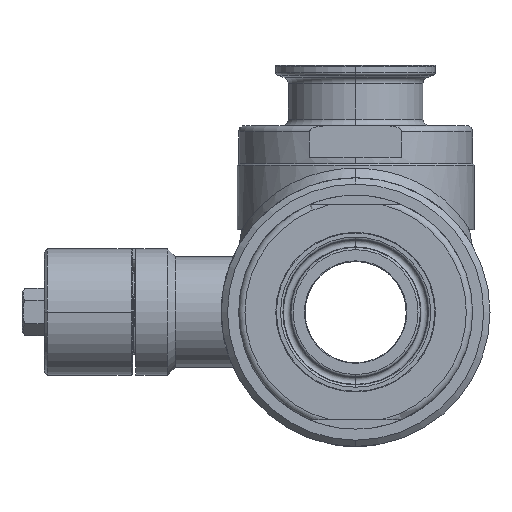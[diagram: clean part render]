
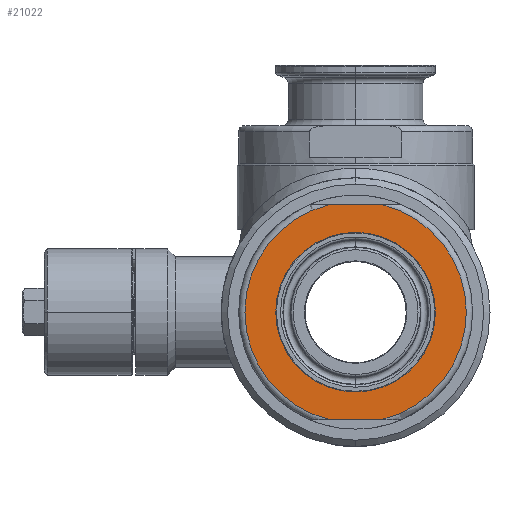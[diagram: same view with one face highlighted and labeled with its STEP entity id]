
A CAD part, left-side view. The second image highlights one B-rep face of the part: STEP entity #21022.
In plain terms, the highlighted planar face has unit normal (-1, 0, 0).
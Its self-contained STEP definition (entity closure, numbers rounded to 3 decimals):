
#20355=CARTESIAN_POINT('',(-59.,0.,0.));
#20356=DIRECTION('',(1.,0.,0.));
#20357=DIRECTION('',(0.,0.,1.));
#20358=AXIS2_PLACEMENT_3D('',#20355,#20356,#20357);
#20365=CARTESIAN_POINT('',(-59.,0.,0.));
#20366=DIRECTION('',(1.,0.,0.));
#20367=DIRECTION('',(0.,0.237,-0.971));
#20368=AXIS2_PLACEMENT_3D('',#20365,#20366,#20367);
#20370=DIRECTION('',(0.,1.,0.));
#20371=VECTOR('',#20370,16.613);
#20372=CARTESIAN_POINT('',(-59.,-8.307,34.));
#20373=LINE('',#20372,#20371);
#20374=CARTESIAN_POINT('',(-59.,0.,0.));
#20375=DIRECTION('',(1.,0.,0.));
#20376=DIRECTION('',(0.,-0.237,0.971));
#20377=AXIS2_PLACEMENT_3D('',#20374,#20375,#20376);
#20379=DIRECTION('',(0.,-1.,0.));
#20380=VECTOR('',#20379,16.613);
#20381=CARTESIAN_POINT('',(-59.,8.307,-34.));
#20382=LINE('',#20381,#20380);
#20383=CARTESIAN_POINT('',(-59.,0.,0.));
#20384=DIRECTION('',(-1.,0.,0.));
#20385=DIRECTION('',(0.,0.,1.));
#20386=AXIS2_PLACEMENT_3D('',#20383,#20384,#20385);
#20418=CARTESIAN_POINT('',(-59.,8.307,34.));
#20491=CARTESIAN_POINT('',(-59.,-8.307,-34.));
#20739=CARTESIAN_POINT('',(-59.,0.,23.3));
#20740=CARTESIAN_POINT('',(-59.,0.,-23.3));
#20741=VERTEX_POINT('',#20739);
#20742=VERTEX_POINT('',#20740);
#20780=VERTEX_POINT('',#20418);
#20781=CARTESIAN_POINT('',(-59.,8.307,-34.));
#20782=VERTEX_POINT('',#20781);
#20785=VERTEX_POINT('',#20491);
#20786=CARTESIAN_POINT('',(-59.,-8.307,34.));
#20787=VERTEX_POINT('',#20786);
#21002=CARTESIAN_POINT('',(-59.,0.,0.));
#21003=DIRECTION('',(-1.,0.,0.));
#21004=DIRECTION('',(0.,0.,-1.));
#21005=AXIS2_PLACEMENT_3D('',#21002,#21003,#21004);
#21006=PLANE('',#21005);
#21008=ORIENTED_EDGE('',*,*,#21007,.T.);
#21010=ORIENTED_EDGE('',*,*,#21009,.F.);
#21012=ORIENTED_EDGE('',*,*,#21011,.T.);
#21014=ORIENTED_EDGE('',*,*,#21013,.F.);
#21015=EDGE_LOOP('',(#21008,#21010,#21012,#21014));
#21016=FACE_OUTER_BOUND('',#21015,.F.);
#21017=ORIENTED_EDGE('',*,*,#20992,.F.);
#21019=ORIENTED_EDGE('',*,*,#21018,.T.);
#21020=EDGE_LOOP('',(#21017,#21019));
#21021=FACE_BOUND('',#21020,.F.);
#21022=ADVANCED_FACE('',(#21016,#21021),#21006,.T.);
#20359=CIRCLE('',#20358,23.3);
#20369=CIRCLE('',#20368,35.);
#20378=CIRCLE('',#20377,35.);
#20387=CIRCLE('',#20386,23.3);
#20992=EDGE_CURVE('',#20741,#20742,#20359,.T.);
#21007=EDGE_CURVE('',#20782,#20780,#20369,.T.);
#21009=EDGE_CURVE('',#20787,#20780,#20373,.T.);
#21011=EDGE_CURVE('',#20787,#20785,#20378,.T.);
#21013=EDGE_CURVE('',#20782,#20785,#20382,.T.);
#21018=EDGE_CURVE('',#20741,#20742,#20387,.T.);
